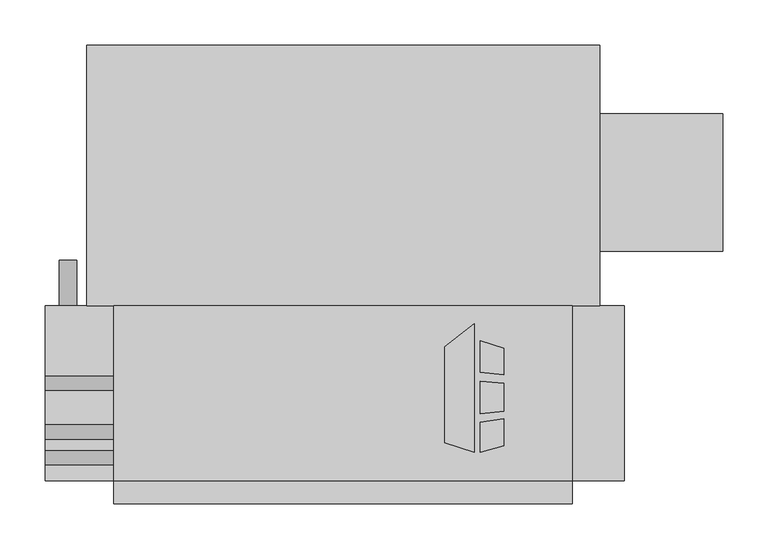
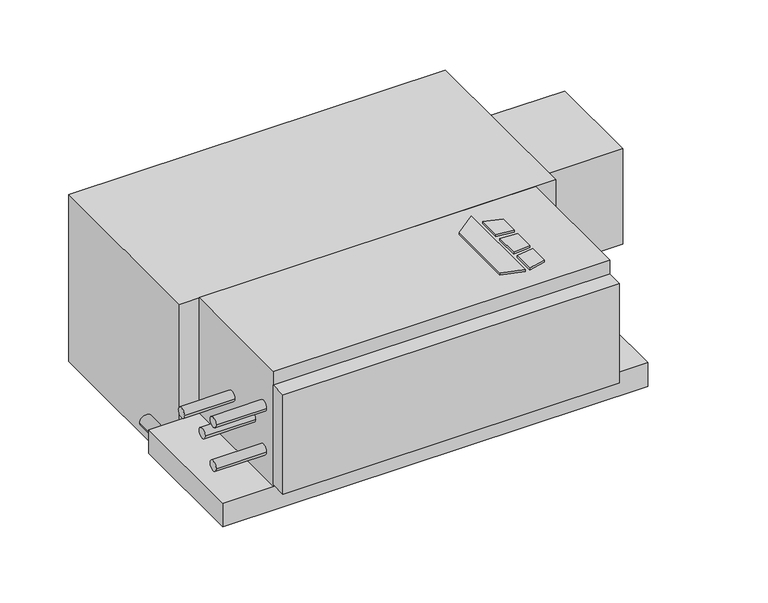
"""IFC4 building model written with IfcOpenShell, lengths in millimetres: proxy geometry, Concealed_Horizontal_Fan_Coil_Unit_With_Plenum_-_CPY_-_IEC_-_4-Pipe_LH_2022 : Size 03 - 277v/60Hz/1Ph - 4/1 Coil."""

import ifcopenshell
import ifcopenshell.guid

model = None  # the IFC model being written
_history = None  # IfcOwnerHistory: only IFC2X3 demands one
_inside = {}  # id of a spatial element -> (the spatial element, [elements in it])
_under = {}  # id of a project, library or spatial element -> (it, [spatial elements below it])
_declared = {}  # id of a project -> (the project, [libraries it declares])
_typed = {}  # id of a type object -> (the type object, [elements of that type])
_made_of = {}  # id of a material, layer set ... -> (it, [elements and type objects made of it])


def new_model(schema):
    """Start an empty IFC model of exactly this schema.

    Asked for "IFC4X3", IfcOpenShell would pick the latest addendum, in which some entities
    have other attributes; the version numbers below select the first issue.
    IFC2X3 requires an IfcOwnerHistory on every rooted entity: one is made here for all.
    """
    global model, _history
    if schema == "IFC4X3":
        model = ifcopenshell.file(schema_version=(4, 3, 0, 0))
    else:
        model = ifcopenshell.file(schema=schema)
    _inside.clear()
    _under.clear()
    _declared.clear()
    _typed.clear()
    _made_of.clear()
    _history = None
    if model.schema == "IFC2X3":
        org = make("IfcOrganization", Name="unknown")
        user = make(
            "IfcPersonAndOrganization",
            ThePerson=make("IfcPerson", FamilyName="unknown"),
            TheOrganization=org,
        )
        app = make(
            "IfcApplication",
            ApplicationDeveloper=org,
            Version="unknown",
            ApplicationFullName="unknown",
            ApplicationIdentifier="unknown",
        )
        _history = make(
            "IfcOwnerHistory",
            OwningUser=user,
            OwningApplication=app,
            ChangeAction="ADDED",
            CreationDate=0,
        )
    return model


def make(cls, **values):
    """One entity of the class cls with the attributes given. An attribute that is None is left unset."""
    return model.create_entity(
        cls, **{name: value for name, value in values.items() if value is not None}
    )


def rooted(cls, **values):
    """An entity with a GlobalId (a new one), such as an element, a storey or a relation."""
    return make(cls, GlobalId=ifcopenshell.guid.new(), OwnerHistory=_history, **values)


def si_unit(unit_type, name, prefix=None):
    """IfcSIUnit, for example si_unit("LENGTHUNIT", "METRE", prefix="MILLI")."""
    return make("IfcSIUnit", UnitType=unit_type, Prefix=prefix, Name=name)


def assignment(units):
    """IfcUnitAssignment: the units of a project."""
    return None if units is None else make("IfcUnitAssignment", Units=units)


def point(xyz):
    """IfcCartesianPoint."""
    return None if xyz is None else make("IfcCartesianPoint", Coordinates=xyz)


def direction(xyz):
    """IfcDirection."""
    return None if xyz is None else make("IfcDirection", DirectionRatios=xyz)


def frame(location, z_axis=None, x_axis=None):
    """IfcAxis2Placement3D, a coordinate frame: its origin and axes. An axis left out is left unset."""
    return make(
        "IfcAxis2Placement3D",
        Location=point(location),
        Axis=direction(z_axis),
        RefDirection=direction(x_axis),
    )


def frame_2d(location, x_axis=None):
    """IfcAxis2Placement2D, a coordinate frame in the plane: its origin and x axis."""
    return make(
        "IfcAxis2Placement2D", Location=point(location), RefDirection=direction(x_axis)
    )


def origin():
    """The frame at (0, 0, 0) with its axes left unset."""
    return frame((0.0, 0.0, 0.0))


def origin_with_axes():
    """The frame at (0, 0, 0) with the z axis (0, 0, 1) and the x axis (1, 0, 0) written out."""
    return frame((0.0, 0.0, 0.0), z_axis=(0.0, 0.0, 1.0), x_axis=(1.0, 0.0, 0.0))


def place(relative_to, where):
    """IfcLocalPlacement: puts the frame where relative to a parent placement (None: the world)."""
    return make(
        "IfcLocalPlacement", PlacementRelTo=relative_to, RelativePlacement=where
    )


def context(
    kind, dimensions, precision=None, world=None, true_north=None, identifier=None
):
    """IfcGeometricRepresentationContext, for example the 3D "Model" context."""
    return make(
        "IfcGeometricRepresentationContext",
        ContextIdentifier=identifier,
        ContextType=kind,
        CoordinateSpaceDimension=dimensions,
        Precision=precision,
        WorldCoordinateSystem=world,
        TrueNorth=true_north,
    )


def project(units=None, contexts=None):
    """IfcProject with its units and contexts."""
    return rooted(
        "IfcProject",
        Name="project",
        RepresentationContexts=contexts,
        UnitsInContext=assignment(units),
    )


def spatial(cls, under=None, at=None, **own):
    """A site, building, storey or space (cls), placed at a placement, below another one or the project."""
    s = rooted(cls, ObjectPlacement=at, **own)
    if under is not None:
        _under.setdefault(under.id(), (under, []))[1].append(s)
    return s


def polyline(points):
    """IfcPolyline through the points."""
    return make("IfcPolyline", Points=[point(p) for p in points])


def circle_curve(where, radius):
    """IfcCircle in the frame where."""
    return make("IfcCircle", Position=where, Radius=radius)


def trimmed(basis, trim1, trim2, sense, master):
    """IfcTrimmedCurve: the piece of a basis curve between two trims."""
    return make(
        "IfcTrimmedCurve",
        BasisCurve=basis,
        Trim1=trim1,
        Trim2=trim2,
        SenseAgreement=sense,
        MasterRepresentation=master,
    )


def segment(curve, same_sense, transition):
    """IfcCompositeCurveSegment."""
    return make(
        "IfcCompositeCurveSegment",
        Transition=transition,
        SameSense=same_sense,
        ParentCurve=curve,
    )


def composite_curve(segments, self_intersect=None):
    """IfcCompositeCurve: segments joined end to end."""
    return make("IfcCompositeCurve", Segments=segments, SelfIntersect=self_intersect)


def outline(outer, holes=None, kind="AREA"):
    """IfcArbitraryClosedProfileDef: a profile drawn as a closed curve; with holes, ...WithVoids."""
    if holes is None:
        return make("IfcArbitraryClosedProfileDef", ProfileType=kind, OuterCurve=outer)
    return make(
        "IfcArbitraryProfileDefWithVoids",
        ProfileType=kind,
        OuterCurve=outer,
        InnerCurves=holes,
    )


def extrude(swept, where, along, depth):
    """IfcExtrudedAreaSolid: the profile swept, set in the frame where, extruded along a direction by depth."""
    return make(
        "IfcExtrudedAreaSolid",
        SweptArea=swept,
        Position=where,
        ExtrudedDirection=direction(along),
        Depth=depth,
    )


def shape(context_of_items, identifier, shape_type, items):
    """IfcShapeRepresentation: the items that make up one representation, for example the "Body"."""
    return make(
        "IfcShapeRepresentation",
        ContextOfItems=context_of_items,
        RepresentationIdentifier=identifier,
        RepresentationType=shape_type,
        Items=items,
    )


def source(mapping_origin, context_of_items, identifier, shape_type, items):
    """IfcRepresentationMap: a shape defined once, which mapped items show again and again."""
    return make(
        "IfcRepresentationMap",
        MappingOrigin=mapping_origin,
        MappedRepresentation=shape(context_of_items, identifier, shape_type, items),
    )


def transform(
    local_origin,
    x_axis=None,
    y_axis=None,
    z_axis=None,
    scale=None,
    scale2=None,
    scale3=None,
    uniform=True,
):
    """IfcCartesianTransformationOperator3D, or its non-uniform kind. x_axis, y_axis, z_axis: its Axis1, 2, 3."""
    if uniform:
        return make(
            "IfcCartesianTransformationOperator3D",
            Axis1=direction(x_axis),
            Axis2=direction(y_axis),
            LocalOrigin=point(local_origin),
            Scale=scale,
            Axis3=direction(z_axis),
        )
    return make(
        "IfcCartesianTransformationOperator3DnonUniform",
        Axis1=direction(x_axis),
        Axis2=direction(y_axis),
        LocalOrigin=point(local_origin),
        Scale=scale,
        Axis3=direction(z_axis),
        Scale2=scale2,
        Scale3=scale3,
    )


def mapped(mapping_source, mapping_target):
    """IfcMappedItem: shows the shape of a source again, moved by a transform."""
    return make(
        "IfcMappedItem", MappingSource=mapping_source, MappingTarget=mapping_target
    )


def made_of(thing, what):
    """Note that an element or type object is made of a material, layer set ...; save() writes the relation."""
    if what is not None:
        _made_of.setdefault(what.id(), (what, []))[1].append(thing)
    return thing


def element(
    cls,
    number,
    at=None,
    inside=None,
    cuts=None,
    type_object=None,
    material=None,
    context=None,
    identifier="Body",
    shape_type=None,
    held_by="IfcProductDefinitionShape",
    body=None,
    shapes=None,
    **own,
):
    """One element of the class cls, such as IfcWall. Its Tag is "e" and its number.

    at: its placement. inside: the storey or other place that contains it. cuts: it is an
    opening in that element (IfcRelVoidsElement). A single representation is given by context,
    identifier, shape_type and body (its items); several are given by shapes. held_by: the class
    of the entity that holds the representations. save() writes the other relations.
    """
    e = rooted(cls, Tag="e%d" % number, ObjectPlacement=at, **own)
    if body is not None:
        shapes = [shape(context, identifier, shape_type, body)]
    if shapes is not None:
        e.Representation = make(held_by, Representations=shapes)
    if inside is not None:
        _inside.setdefault(inside.id(), (inside, []))[1].append(e)
    if cuts is not None:
        rooted(
            "IfcRelVoidsElement", RelatingBuildingElement=cuts, RelatedOpeningElement=e
        )
    if type_object is not None:
        _typed.setdefault(type_object.id(), (type_object, []))[1].append(e)
    return made_of(e, material)


def aggregate(whole, parts):
    """IfcRelAggregates: a whole, such as a stair, and the parts it consists of."""
    return rooted("IfcRelAggregates", RelatingObject=whole, RelatedObjects=parts)


def save(model, path):
    """Write the relations noted so far, then the file.

    IfcRelAggregates (storeys below a building ...), IfcRelContainedInSpatialStructure (elements
    in a storey), IfcRelDefinesByType, IfcRelAssociatesMaterial and IfcRelDeclares: one each for
    every whole, place, type object, material and project.
    """
    for whole, parts in _under.values():
        aggregate(whole, parts)
    for where, things in _inside.values():
        rooted(
            "IfcRelContainedInSpatialStructure",
            RelatedElements=things,
            RelatingStructure=where,
        )
    for kind, things in _typed.values():
        rooted("IfcRelDefinesByType", RelatedObjects=things, RelatingType=kind)
    for what, things in _made_of.values():
        rooted("IfcRelAssociatesMaterial", RelatedObjects=things, RelatingMaterial=what)
    for by, libraries in _declared.values():
        rooted("IfcRelDeclares", RelatingContext=by, RelatedDefinitions=libraries)
    model.write(path)


def mechanical_equipment_45491a60(model_context):
    return source(origin(), model_context, "Body", "SweptSolid", [
        extrude(outline(polyline([(264.8019761, -186.6953476), (297.3602728, -161.2580184), (297.3602728, -303.2125), (264.8019761, -292.9929201), (264.8019761, -186.6953476)])), origin_with_axes(), (0.0, 0.0, 1.0), 3.175),
        extrude(outline(polyline([(304.1186058, -214.567352), (304.1186058, -180.0874379), (330.2, -188.2740115), (330.2, -217.7697446), (304.1186058, -214.567352)])), origin_with_axes(), (0.0, 0.0, 1.0), 3.175),
        extrude(outline(polyline([(330.2, -296.2240115), (304.1186058, -303.2125), (304.1186058, -269.9911996), (330.2, -266.4493564), (330.2, -296.2240115)])), origin_with_axes(), (0.0, 0.0, 1.0), 3.175),
        extrude(outline(polyline([(330.2, -226.8513277), (330.2, -258.101483), (304.1186058, -260.842748), (304.1186058, -224.9850378), (330.2, -226.8513277)])), origin_with_axes(), (0.0, 0.0, 1.0), 3.175),
        extrude(outline(composite_curve([segment(trimmed(circle_curve(frame_2d((-209.55, -152.4)), 9.525), [point((-209.55, -161.925))], [point((-209.55, -142.875))], False, "CARTESIAN"), True, "CONTINUOUS"), segment(trimmed(circle_curve(frame_2d((-209.55, -152.4)), 9.525), [point((-209.55, -142.875))], [point((-209.55, -161.925))], False, "CARTESIAN"), True, "CONTINUOUS")], self_intersect=False)), frame((0.0, -141.2875, 0.0), z_axis=(0.0, 1.0, 0.0), x_axis=(0.0, 0.0, 1.0)), (0.0, 0.0, 1.0), 50.8),
        extrude(outline(composite_curve([segment(trimmed(circle_curve(frame_2d((-309.5625, -69.85)), 7.9375), [point((-301.625, -69.85))], [point((-317.5, -69.85))], False, "CARTESIAN"), True, "CONTINUOUS"), segment(trimmed(circle_curve(frame_2d((-309.5625, -69.85)), 7.9375), [point((-317.5, -69.85))], [point((-301.625, -69.85))], False, "CARTESIAN"), True, "CONTINUOUS")], self_intersect=False)), frame((-177.8, 0.0, 0.0), z_axis=(1.0, 0.0, 0.0), x_axis=(0.0, 1.0, 0.0)), (0.0, 0.0, 1.0), 76.2),
        extrude(outline(composite_curve([segment(trimmed(circle_curve(frame_2d((-309.5625, -139.7)), 7.9375), [point((-301.625, -139.7))], [point((-317.5, -139.7))], False, "CARTESIAN"), True, "CONTINUOUS"), segment(trimmed(circle_curve(frame_2d((-309.5625, -139.7)), 7.9375), [point((-317.5, -139.7))], [point((-301.625, -139.7))], False, "CARTESIAN"), True, "CONTINUOUS")], self_intersect=False)), frame((-177.8, 0.0, 0.0), z_axis=(1.0, 0.0, 0.0), x_axis=(0.0, 1.0, 0.0)), (0.0, 0.0, 1.0), 76.2),
        extrude(outline(composite_curve([segment(trimmed(circle_curve(frame_2d((-227.0125, -104.775)), 7.9375), [point((-219.075, -104.775))], [point((-234.95, -104.775))], False, "CARTESIAN"), True, "CONTINUOUS"), segment(trimmed(circle_curve(frame_2d((-227.0125, -104.775)), 7.9375), [point((-234.95, -104.775))], [point((-219.075, -104.775))], False, "CARTESIAN"), True, "CONTINUOUS")], self_intersect=False)), frame((-177.8, 0.0, 0.0), z_axis=(1.0, 0.0, 0.0), x_axis=(0.0, 1.0, 0.0)), (0.0, 0.0, 1.0), 76.2),
        extrude(outline(composite_curve([segment(trimmed(circle_curve(frame_2d((-280.9875, -104.775)), 7.9375), [point((-273.05, -104.775))], [point((-288.925, -104.775))], False, "CARTESIAN"), True, "CONTINUOUS"), segment(trimmed(circle_curve(frame_2d((-280.9875, -104.775)), 7.9375), [point((-288.925, -104.775))], [point((-273.05, -104.775))], False, "CARTESIAN"), True, "CONTINUOUS")], self_intersect=False)), frame((-177.8, 0.0, 0.0), z_axis=(1.0, 0.0, 0.0), x_axis=(0.0, 1.0, 0.0)), (0.0, 0.0, 1.0), 76.2),
        extrude(outline(polyline([(406.4, -334.9625), (406.4, -360.3625), (-101.6, -360.3625), (-101.6, -334.9625), (406.4, -334.9625)])), frame((0.0, 0.0, -180.975), z_axis=(0.0, 0.0, 1.0), x_axis=(1.0, 0.0, 0.0)), (0.0, 0.0, 1.0), 158.75),
        extrude(outline(polyline([(406.4, -334.9625), (-101.6, -334.9625), (-101.6, -141.2875), (406.4, -141.2875), (406.4, -334.9625)])), frame((0.0, 0.0, -184.15), z_axis=(0.0, 0.0, 1.0), x_axis=(1.0, 0.0, 0.0)), (0.0, 0.0, 1.0), 184.15),
        extrude(outline(polyline([(463.55, -141.2875), (463.55, -334.9625), (-177.8, -334.9625), (-177.8, -141.2875), (463.55, -141.2875)])), frame((0.0, 0.0, -222.25), z_axis=(0.0, 0.0, 1.0), x_axis=(1.0, 0.0, 0.0)), (0.0, 0.0, 1.0), 38.1),
        extrude(outline(polyline([(573.0875, 71.4375), (573.0875, -80.9625), (436.5625, -80.9625), (436.5625, 71.4375), (573.0875, 71.4375)])), frame((0.0, 0.0, -187.325), z_axis=(0.0, 0.0, 1.0), x_axis=(1.0, 0.0, 0.0)), (0.0, 0.0, 1.0), 152.4),
        extrude(outline(polyline([(-131.7625, 147.6375), (436.5625, 147.6375), (436.5625, -141.2875), (-131.7625, -141.2875), (-131.7625, 147.6375)])), frame((0.0, 0.0, -266.7), z_axis=(0.0, 0.0, 1.0), x_axis=(1.0, 0.0, 0.0)), (0.0, 0.0, 1.0), 266.7),
    ])


if __name__ == "__main__":
    model = new_model("IFC4")
    model_context = context("Model", 3, world=origin())
    ifc_project = project(units=[si_unit("LENGTHUNIT", "METRE", prefix="MILLI")], contexts=[model_context])
    site = spatial("IfcSite", under=ifc_project)
    building = spatial("IfcBuilding", under=site)
    placement = place(None, origin())
    mechanical_equipment_shape = mechanical_equipment_45491a60(model_context)
    element("IfcBuildingElementProxy", 1, Name="Concealed_Horizontal_Fan_Coil_Unit_With_Plenum_-_CPY_-_IEC_-_4-Pipe_LH_2022 : Size 03 - 277v/60Hz/1Ph - 4/1 Coil", ObjectType="Concealed_Horizontal_Fan_Coil_Unit_With_Plenum_-_CPY_-_IEC_-_4-Pipe_LH_2022 : Size 03 - 277v/60Hz/1Ph - 4/1 Coil", at=placement, inside=building, context=model_context, shape_type="MappedRepresentation", body=[
        mapped(mechanical_equipment_shape, transform((0.0, 0.0, 0.0), x_axis=(1.0, 0.0, 0.0), y_axis=(0.0, 1.0, 0.0), z_axis=(0.0, 0.0, 1.0))),
    ])
    save(model, "model.ifc")
